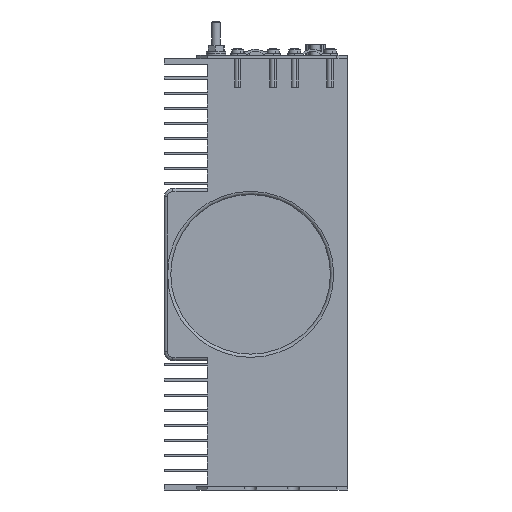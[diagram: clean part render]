
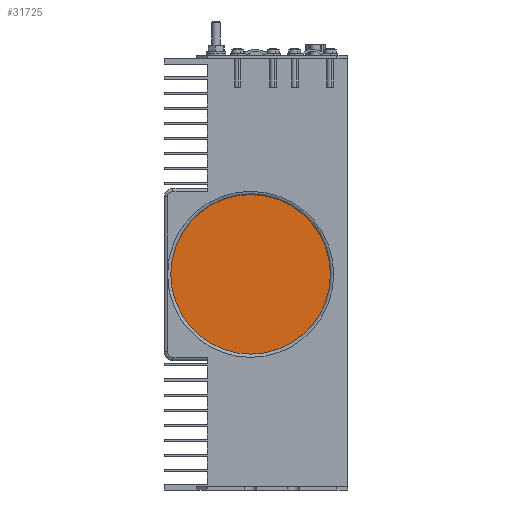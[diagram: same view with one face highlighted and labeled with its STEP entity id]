
A CAD part, front view. The second image highlights one B-rep face of the part: STEP entity #31725.
In plain terms, the highlighted planar face has unit normal (0, -1, 0).
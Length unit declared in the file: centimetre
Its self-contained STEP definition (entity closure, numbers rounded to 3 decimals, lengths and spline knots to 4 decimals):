
#1106=CIRCLE('',#32945,3.7);
#5430=VERTEX_POINT('',#50939);
#15774=EDGE_CURVE('',#5430,#5430,#1106,.T.);
#23573=ORIENTED_EDGE('',*,*,#15774,.T.);
#27680=EDGE_LOOP('',(#23573));
#29757=FACE_BOUND('',#27680,.T.);
#31725=ADVANCED_FACE('',(#29757),#54340,.T.);
#32945=AXIS2_PLACEMENT_3D('',#50938,#36512,#36513);
#32946=AXIS2_PLACEMENT_3D('',#50940,#36514,$);
#36512=DIRECTION('',(0.,-1.,0.));
#36513=DIRECTION('',(3.7,0.,0.));
#36514=DIRECTION('',(0.,-1.,0.));
#50938=CARTESIAN_POINT('',(2.5,1.7,10.));
#50939=CARTESIAN_POINT('',(6.2,1.7,10.));
#50940=CARTESIAN_POINT('',(2.5,1.7,10.));
#54340=PLANE('',#32946);
